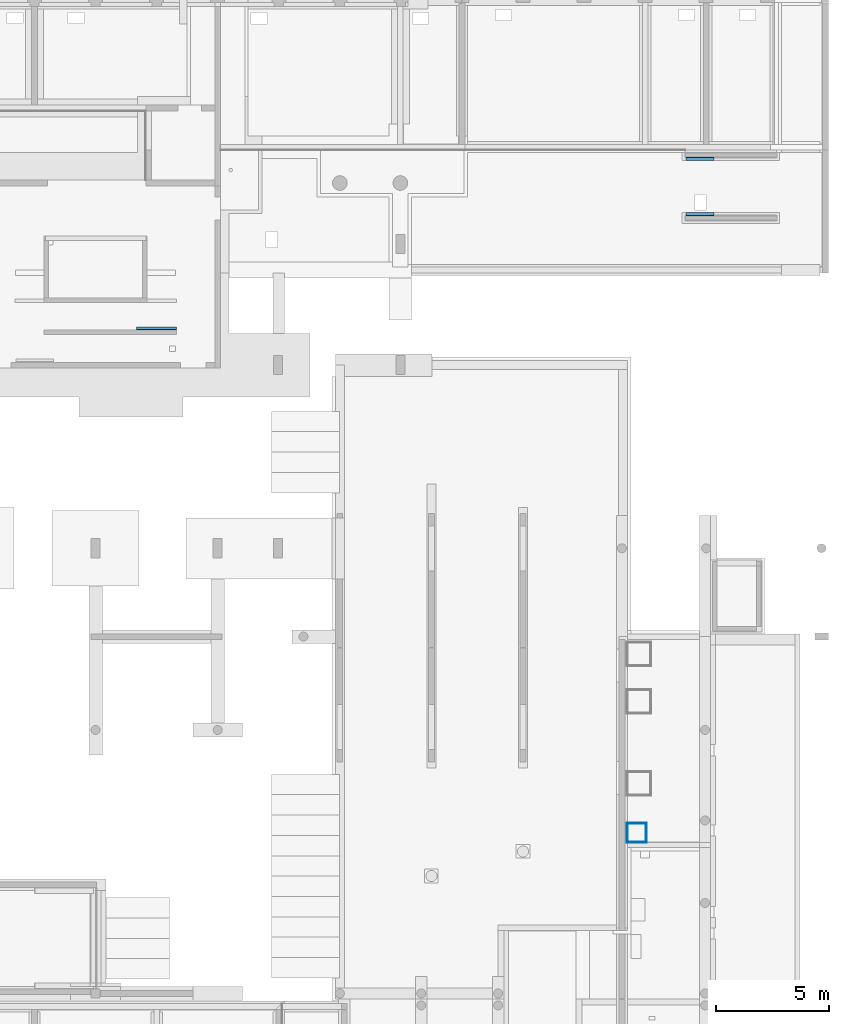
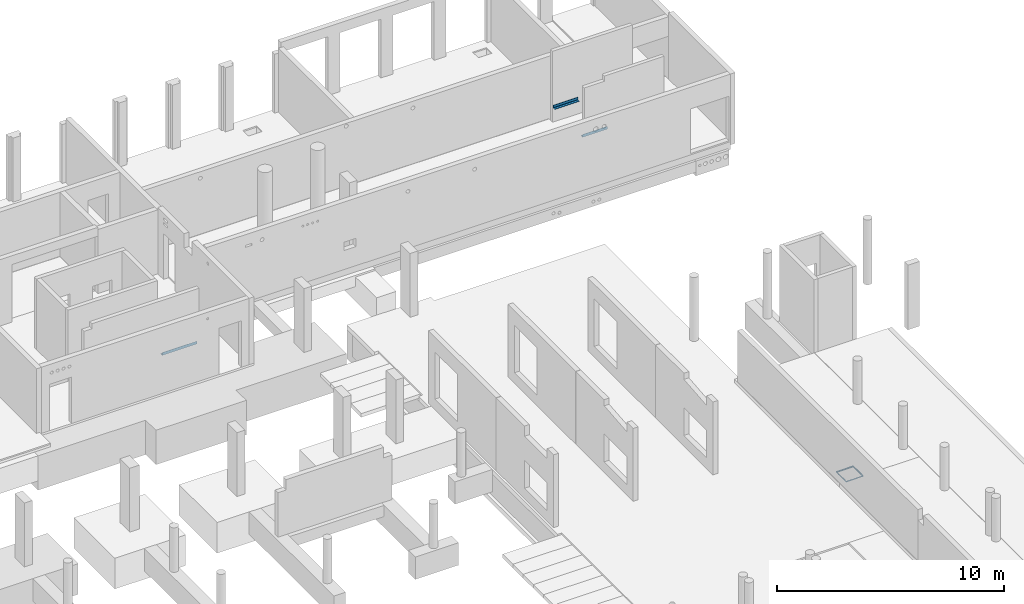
# One storey, part 19 of 60: 7 beams.
"""IFC2X3 building model written with IfcOpenShell, lengths in millimetres."""

from ifc_helpers import new_model, entity, si_unit, converted_unit, derived_unit, direction, frame, frame_2d, origin, place, context, subcontext, project, spatial, polyline, circle_curve, parameter, trimmed, segment, composite_curve, outline, extrude, clip, halfspace, material, type_object, element, save


model = new_model("IFC2X3")

# Units and contexts
model_context = context("Model", 3, precision=0.01, world=origin(), true_north=direction((6.12303176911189e-17, 1.0)))
body_context = subcontext(model_context, "Body", "Model", "MODEL_VIEW")
ifc_project = project(units=[si_unit("LENGTHUNIT", "METRE", prefix="MILLI"), si_unit("AREAUNIT", "SQUARE_METRE"), si_unit("VOLUMEUNIT", "CUBIC_METRE"), converted_unit("PLANEANGLEUNIT", "DEGREE", entity("IfcRatioMeasure", 0.0174532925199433), si_unit("PLANEANGLEUNIT", "RADIAN"), dimensions=[0, 0, 0, 0, 0, 0, 0]), si_unit("MASSUNIT", "GRAM", prefix="KILO"), derived_unit("MASSDENSITYUNIT", [(si_unit("MASSUNIT", "GRAM", prefix="KILO"), 1), (si_unit("LENGTHUNIT", "METRE"), -3)]), si_unit("TIMEUNIT", "SECOND"), si_unit("FREQUENCYUNIT", "HERTZ"), si_unit("THERMODYNAMICTEMPERATUREUNIT", "DEGREE_CELSIUS"), derived_unit("THERMALTRANSMITTANCEUNIT", [(si_unit("MASSUNIT", "GRAM", prefix="KILO"), 1), (si_unit("THERMODYNAMICTEMPERATUREUNIT", "KELVIN"), -1), (si_unit("TIMEUNIT", "SECOND"), -3)]), derived_unit("VOLUMETRICFLOWRATEUNIT", [(si_unit("LENGTHUNIT", "METRE"), 3), (si_unit("TIMEUNIT", "SECOND"), -1)]), si_unit("ELECTRICCURRENTUNIT", "AMPERE"), si_unit("ELECTRICVOLTAGEUNIT", "VOLT"), si_unit("POWERUNIT", "WATT"), si_unit("FORCEUNIT", "NEWTON", prefix="KILO"), si_unit("ILLUMINANCEUNIT", "LUX"), si_unit("LUMINOUSFLUXUNIT", "LUMEN"), si_unit("LUMINOUSINTENSITYUNIT", "CANDELA"), derived_unit("USERDEFINED", [(si_unit("MASSUNIT", "GRAM", prefix="KILO"), -1), (si_unit("LENGTHUNIT", "METRE"), -2), (si_unit("TIMEUNIT", "SECOND"), 3), (si_unit("LUMINOUSFLUXUNIT", "LUMEN"), 1)]), derived_unit("LINEARVELOCITYUNIT", [(si_unit("LENGTHUNIT", "METRE"), 1), (si_unit("TIMEUNIT", "SECOND"), -1)]), si_unit("PRESSUREUNIT", "PASCAL"), derived_unit("USERDEFINED", [(si_unit("LENGTHUNIT", "METRE"), -2), (si_unit("MASSUNIT", "GRAM", prefix="KILO"), 1), (si_unit("TIMEUNIT", "SECOND"), -2)])], contexts=[model_context])

# Site, building, storey
site_placement = place(None, origin())
site = spatial("IfcSite", under=ifc_project, at=site_placement, Name="Default", CompositionType="ELEMENT")
building_placement = place(site_placement, origin())
building = spatial("IfcBuilding", under=site, at=building_placement, Name="niet gebruiken", CompositionType="ELEMENT")
storey_placement = place(building_placement, origin())
storey = spatial("IfcBuildingStorey", under=building, at=storey_placement, Name="00 begane grond", CompositionType="ELEMENT", Elevation=0.0)

# Beams
ifc_material = material(Name="NLRS_h2_staal")
beam_type_1 = type_object("IfcBeamType", Name="NLRS_28.11_SF_WPB_stalen ligger hoekprofiel gelijkzijdig_gen:ligger gelijzijdig hoekprofiel LEQU_150x150x15", PredefinedType="BEAM")
beam_1_placement = place(storey_placement, frame((117900.0, 46133.5000000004, 760.0)))
element("IfcBeam", 1, at=beam_1_placement, inside=storey, type_object=beam_type_1, material=ifc_material, Name="NLRS_28.11_SF_WPB_stalen ligger hoekprofiel gelijkzijdig_gen:ligger gelijzijdig hoekprofiel LEQU_150x150x15", ObjectType="NLRS_28.11_SF_WPB_stalen ligger hoekprofiel gelijkzijdig_gen:ligger gelijzijdig hoekprofiel LEQU_150x150x15", context=body_context, shape_type="SweptSolid", body=[
    extrude(outline(composite_curve([segment(polyline([(49.6666666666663, -93.3333333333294), (56.6666666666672, -93.3333333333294)]), True, "CONTINUOUS"), segment(polyline([(56.6666666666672, -93.3333333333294), (56.6666666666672, 56.6666666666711)]), True, "CONTINUOUS"), segment(polyline([(56.6666666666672, 56.6666666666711), (-93.3333333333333, 56.6666666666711)]), True, "CONTINUOUS"), segment(polyline([(-93.3333333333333, 56.6666666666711), (-93.3333333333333, 49.6666666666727)]), True, "CONTINUOUS"), segment(trimmed(circle_curve(frame_2d((-85.3333333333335, 49.6666666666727), x_axis=(-1.0, 0.0)), 7.99999999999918), [parameter(0.0)], [parameter(90.000000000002)], True, "PARAMETER"), True, "CONTINUOUS"), segment(polyline([(-85.3333333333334, 41.6666666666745), (25.6666666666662, 41.6666666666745)]), True, "CONTINUOUS"), segment(trimmed(circle_curve(frame_2d((25.6666666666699, 25.6666666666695), x_axis=(0.0, 1.0)), 15.9999999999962), [parameter(269.999999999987)], [parameter(0.0)], True, "PARAMETER"), False, "CONTINUOUS"), segment(polyline([(41.6666666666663, 25.6666666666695), (41.6666666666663, -85.3333333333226)]), True, "CONTINUOUS"), segment(trimmed(circle_curve(frame_2d((49.6666666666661, -85.3333333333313), x_axis=(-1.0, 0.0)), 7.99999999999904), [parameter(0.0)], [parameter(90.000000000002)], True, "PARAMETER"), True, "CONTINUOUS")], self_intersect=False)), frame((0.0, -14.1666666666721, 56.6666666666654), z_axis=(1.0, 0.0, 0.0), x_axis=(0.0, 0.0, -1.0)), (0.0, 0.0, 1.0), 1249.99999999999),
])
beam_2_placement = place(storey_placement, frame((117900.0, 43618.5000000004, 760.0)))
element("IfcBeam", 2, at=beam_2_placement, inside=storey, type_object=beam_type_1, material=ifc_material, Name="NLRS_28.11_SF_WPB_stalen ligger hoekprofiel gelijkzijdig_gen:ligger gelijzijdig hoekprofiel LEQU_150x150x15", ObjectType="NLRS_28.11_SF_WPB_stalen ligger hoekprofiel gelijkzijdig_gen:ligger gelijzijdig hoekprofiel LEQU_150x150x15", context=body_context, shape_type="SweptSolid", body=[
    extrude(outline(composite_curve([segment(polyline([(-93.3333333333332, -56.6666666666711), (56.6666666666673, -56.6666666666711)]), True, "CONTINUOUS"), segment(polyline([(56.6666666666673, -56.6666666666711), (56.6666666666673, 93.3333333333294)]), True, "CONTINUOUS"), segment(polyline([(56.6666666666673, 93.3333333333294), (49.6666666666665, 93.3333333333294)]), True, "CONTINUOUS"), segment(trimmed(circle_curve(frame_2d((49.6666666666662, 85.3333333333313), x_axis=(0.0, 1.0)), 7.99999999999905), [parameter(0.0)], [parameter(90.000000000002)], True, "PARAMETER"), True, "CONTINUOUS"), segment(polyline([(41.6666666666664, 85.3333333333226), (41.6666666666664, -25.6666666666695)]), True, "CONTINUOUS"), segment(trimmed(circle_curve(frame_2d((25.66666666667, -25.6666666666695), x_axis=(1.0, 0.0)), 15.9999999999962), [parameter(269.999999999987)], [parameter(0.0)], True, "PARAMETER"), False, "CONTINUOUS"), segment(polyline([(25.6666666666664, -41.6666666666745), (-85.3333333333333, -41.6666666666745)]), True, "CONTINUOUS"), segment(trimmed(circle_curve(frame_2d((-85.3333333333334, -49.6666666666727), x_axis=(0.0, 1.0)), 7.99999999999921), [parameter(0.0)], [parameter(90.000000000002)], True, "PARAMETER"), True, "CONTINUOUS"), segment(polyline([(-93.3333333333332, -49.6666666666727), (-93.3333333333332, -56.6666666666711)]), True, "CONTINUOUS")], self_intersect=False)), frame((0.0, 14.1666666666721, 56.6666666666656), z_axis=(1.0, 0.0, 0.0), x_axis=(0.0, 0.0, -1.0)), (0.0, 0.0, 1.0), 1249.99999999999),
])
beam_3_placement = place(storey_placement, frame((93620.0, 38568.4999999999, 600.909090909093)))
element("IfcBeam", 3, at=beam_3_placement, inside=storey, type_object=beam_type_1, material=ifc_material, Name="NLRS_28.11_SF_WPB_stalen ligger hoekprofiel gelijkzijdig_gen:ligger gelijzijdig hoekprofiel LEQU_150x150x15", ObjectType="NLRS_28.11_SF_WPB_stalen ligger hoekprofiel gelijkzijdig_gen:ligger gelijzijdig hoekprofiel LEQU_150x150x15", context=body_context, shape_type="SweptSolid", body=[
    extrude(outline(composite_curve([segment(polyline([(-93.3333333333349, -56.6666666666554), (56.6666666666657, -56.6666666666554)]), True, "CONTINUOUS"), segment(polyline([(56.6666666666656, -56.6666666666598), (56.6666666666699, 93.3333333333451)]), True, "CONTINUOUS"), segment(polyline([(56.6666666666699, 93.3333333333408), (49.6666666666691, 93.3333333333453)]), True, "CONTINUOUS"), segment(trimmed(circle_curve(frame_2d((49.666666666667, 85.3333333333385), x_axis=(0.0, 1.0)), 7.99999999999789), [parameter(0.0)], [parameter(90.0000000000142)], True, "PARAMETER"), True, "CONTINUOUS"), segment(polyline([(41.6666666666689, 85.3333333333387), (41.6666666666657, -25.6666666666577)]), True, "CONTINUOUS"), segment(trimmed(circle_curve(frame_2d((25.6666666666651, -25.6666666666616), x_axis=(1.0, 0.0)), 16.0000000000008), [parameter(270.000000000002)], [parameter(0.0)], True, "PARAMETER"), False, "CONTINUOUS"), segment(polyline([(25.6666666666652, -41.6666666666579), (-85.3333333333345, -41.6666666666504)]), True, "CONTINUOUS"), segment(trimmed(circle_curve(frame_2d((-85.3333333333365, -49.6666666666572), x_axis=(0.0, 1.0)), 7.99999999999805), [parameter(0.0)], [parameter(90.0000000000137)], True, "PARAMETER"), True, "CONTINUOUS"), segment(polyline([(-93.3333333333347, -49.666666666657), (-93.3333333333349, -56.6666666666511)]), True, "CONTINUOUS")], self_intersect=False)), frame((0.0, 14.1666666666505, 56.6666666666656), z_axis=(1.0, 0.0, 0.0), x_axis=(0.0, 0.0, -1.0)), (0.0, 0.0, 1.0), 1755.00000000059),
])
beam_type_2 = type_object("IfcBeamType", Name="NLRS_28.11_SF_WPB_stalen ligger hoekprofiel gelijkzijdig_gen:ligger gelijzijdig hoekprofiel LEQU_40x40x4", PredefinedType="BEAM")
beam_4_placement = place(storey_placement, frame((115296.2, 16786.0, 0.0), z_axis=(0.0, 0.0, 1.0), x_axis=(0.0, -1.0, 0.0)))
element("IfcBeam", 4, at=beam_4_placement, inside=storey, type_object=beam_type_2, material=ifc_material, Name="NLRS_28.11_SF_WPB_stalen ligger hoekprofiel gelijkzijdig_gen:ligger gelijzijdig hoekprofiel LEQU_40x40x4", ObjectType="NLRS_28.11_SF_WPB_stalen ligger hoekprofiel gelijkzijdig_gen:ligger gelijzijdig hoekprofiel LEQU_40x40x4", context=body_context, shape_type="Clipping", body=[
    clip(clip(extrude(outline(composite_curve([segment(polyline([(-24.8888888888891, -15.1111111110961), (15.1111111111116, -15.1111111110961)]), True, "CONTINUOUS"), segment(polyline([(15.1111111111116, -15.1111111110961), (15.1111111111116, 24.8888888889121)]), True, "CONTINUOUS"), segment(polyline([(15.1111111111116, 24.8888888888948), (14.1111111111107, 24.8888888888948)]), True, "CONTINUOUS"), segment(trimmed(circle_curve(frame_2d((14.1111111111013, 21.8888888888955), x_axis=(0.0, 1.0)), 2.99999999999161), [parameter(0.0)], [parameter(90.0000000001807)], True, "PARAMETER"), True, "CONTINUOUS"), segment(polyline([(11.1111111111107, 21.8888888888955), (11.1111111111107, -5.1111111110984)]), True, "CONTINUOUS"), segment(trimmed(circle_curve(frame_2d((5.11111111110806, -5.1111111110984), x_axis=(1.0, 0.0)), 6.00000000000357), [parameter(270.000000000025)], [parameter(0.0)], True, "PARAMETER"), False, "CONTINUOUS"), segment(polyline([(5.11111111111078, -11.111111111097), (-21.888888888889, -11.111111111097)]), True, "CONTINUOUS"), segment(trimmed(circle_curve(frame_2d((-21.8888888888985, -14.1111111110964), x_axis=(0.0, 1.0)), 2.99999999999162), [parameter(0.0)], [parameter(90.0000000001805)], True, "PARAMETER"), True, "CONTINUOUS"), segment(polyline([(-24.8888888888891, -14.1111111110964), (-24.8888888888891, -15.1111111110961)]), True, "CONTINUOUS")], self_intersect=False)), frame((49.9999894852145, 3.9111111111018, -24.8888888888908), z_axis=(1.0, 0.0, 0.0), x_axis=(0.0, 0.0, -1.0)), (0.0, 0.0, 1.0), 880.000021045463), halfspace(frame((930.0, -11.199989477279, 1000.0), z_axis=(0.707106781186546, 0.707106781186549, 0.0), x_axis=(0.707106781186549, -0.707106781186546, 0.0)), False)), halfspace(frame((50.0, -11.1999894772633, 1000.0), z_axis=(-0.707106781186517, 0.707106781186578, 0.0), x_axis=(-0.707106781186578, -0.707106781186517, 0.0)), False)),
])
beam_5_placement = place(storey_placement, frame((115251.216061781, 15867.2000000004, 0.0)))
element("IfcBeam", 5, at=beam_5_placement, inside=storey, type_object=beam_type_2, material=ifc_material, Name="NLRS_28.11_SF_WPB_stalen ligger hoekprofiel gelijkzijdig_gen:ligger gelijzijdig hoekprofiel LEQU_40x40x4", ObjectType="NLRS_28.11_SF_WPB_stalen ligger hoekprofiel gelijkzijdig_gen:ligger gelijzijdig hoekprofiel LEQU_40x40x4", context=body_context, shape_type="Clipping", body=[
    clip(clip(extrude(outline(composite_curve([segment(polyline([(-24.888888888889, -15.1111111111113), (15.1111111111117, -15.1111111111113)]), True, "CONTINUOUS"), segment(polyline([(15.1111111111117, -15.1111111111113), (15.1111111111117, 24.8888888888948)]), True, "CONTINUOUS"), segment(polyline([(15.1111111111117, 24.8888888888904), (14.1111111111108, 24.8888888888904)]), True, "CONTINUOUS"), segment(trimmed(circle_curve(frame_2d((14.1111111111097, 21.8888888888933), x_axis=(0.0, 1.0)), 2.99999999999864), [parameter(0.0)], [parameter(90.0000000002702)], True, "PARAMETER"), True, "CONTINUOUS"), segment(polyline([(11.1111111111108, 21.8888888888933), (11.1111111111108, -5.11111111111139)]), True, "CONTINUOUS"), segment(trimmed(circle_curve(frame_2d((5.11111111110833, -5.11111111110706), x_axis=(1.0, 0.0)), 6.00000000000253), [parameter(270.000000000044)], [parameter(0.0)], True, "PARAMETER"), False, "CONTINUOUS"), segment(polyline([(5.11111111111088, -11.11111111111), (-21.8888888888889, -11.11111111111)]), True, "CONTINUOUS"), segment(trimmed(circle_curve(frame_2d((-21.8888888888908, -14.1111111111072), x_axis=(0.0, 1.0)), 2.99999999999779), [parameter(0.0)], [parameter(90.0000000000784)], True, "PARAMETER"), True, "CONTINUOUS"), segment(polyline([(-24.888888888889, -14.1111111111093), (-24.888888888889, -15.1111111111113)]), True, "CONTINUOUS")], self_intersect=False)), frame((33.7839487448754, 3.9111111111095, -24.8888888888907), z_axis=(1.0, 0.0, 0.0), x_axis=(0.0, 0.0, -1.0)), (0.0, 0.0, 1.0), 879.99999999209), halfspace(frame((33.7839487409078, -11.2000000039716, 1000.0), z_axis=(-0.707106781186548, 0.707106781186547, 0.0), x_axis=(-0.707106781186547, -0.707106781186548, 0.0)), False)), halfspace(frame((913.783948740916, -11.2000000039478, 1000.0), z_axis=(0.707106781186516, 0.707106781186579, 0.0), x_axis=(0.707106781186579, -0.707106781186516, 0.0)), False)),
])
beam_6_placement = place(storey_placement, frame((115251.216061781, 16724.7999999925, 0.0)))
element("IfcBeam", 6, at=beam_6_placement, inside=storey, type_object=beam_type_2, material=ifc_material, Name="NLRS_28.11_SF_WPB_stalen ligger hoekprofiel gelijkzijdig_gen:ligger gelijzijdig hoekprofiel LEQU_40x40x4", ObjectType="NLRS_28.11_SF_WPB_stalen ligger hoekprofiel gelijkzijdig_gen:ligger gelijzijdig hoekprofiel LEQU_40x40x4", context=body_context, shape_type="Clipping", body=[
    clip(clip(extrude(outline(composite_curve([segment(polyline([(14.1111111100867, -24.8888888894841), (15.1111111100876, -24.8888888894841)]), True, "CONTINUOUS"), segment(polyline([(15.1111111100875, -24.8888888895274), (15.1111111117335, 15.1111111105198)]), True, "CONTINUOUS"), segment(polyline([(15.1111111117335, 15.1111111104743), (-24.8888888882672, 15.1111111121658)]), True, "CONTINUOUS"), segment(polyline([(-24.8888888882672, 15.1111111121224), (-24.8888888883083, 14.1111111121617)]), True, "CONTINUOUS"), segment(trimmed(circle_curve(frame_2d((-21.8888888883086, 14.1111111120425), x_axis=(-1.0, 0.0)), 2.99999999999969), [parameter(0.0)], [parameter(90.0000000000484)], True, "PARAMETER"), True, "CONTINUOUS"), segment(polyline([(-21.8888888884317, 11.1111111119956), (5.11111111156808, 11.11111111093)]), True, "CONTINUOUS"), segment(trimmed(circle_curve(frame_2d((5.11111111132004, 5.1111111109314), x_axis=(0.0, 1.0)), 6.00000000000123), [parameter(269.99999999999)], [parameter(0.0)], True, "PARAMETER"), False, "CONTINUOUS"), segment(polyline([(11.1111111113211, 5.11111111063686), (11.1111111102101, -21.888888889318)]), True, "CONTINUOUS"), segment(trimmed(circle_curve(frame_2d((14.1111111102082, -21.8888888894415), x_axis=(-1.0, 0.0)), 2.99999999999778), [parameter(0.0)], [parameter(90.0000000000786)], True, "PARAMETER"), True, "CONTINUOUS")], self_intersect=False)), frame((33.7839487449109, -3.91111111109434, -24.8888888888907), z_axis=(1.0, 0.0, 0.0), x_axis=(0.0, 0.0, -1.0)), (0.0, 0.0, 1.0), 879.999999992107), halfspace(frame((913.783948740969, 11.2000000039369, 1000.0), z_axis=(0.707106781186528, -0.707106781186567, 0.0), x_axis=(0.707106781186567, 0.707106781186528, 0.0)), False)), halfspace(frame((33.7839487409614, 11.2000000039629, 1000.0), z_axis=(-0.707106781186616, -0.707106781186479, 0.0), x_axis=(-0.707106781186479, 0.707106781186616, 0.0)), False)),
])
beam_7_placement = place(storey_placement, frame((116153.800021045, 16786.0, 0.0), z_axis=(0.0, 0.0, 1.0), x_axis=(0.0, -1.0, 0.0)))
element("IfcBeam", 7, at=beam_7_placement, inside=storey, type_object=beam_type_2, material=ifc_material, Name="NLRS_28.11_SF_WPB_stalen ligger hoekprofiel gelijkzijdig_gen:ligger gelijzijdig hoekprofiel LEQU_40x40x4", ObjectType="NLRS_28.11_SF_WPB_stalen ligger hoekprofiel gelijkzijdig_gen:ligger gelijzijdig hoekprofiel LEQU_40x40x4", context=body_context, shape_type="Clipping", body=[
    clip(clip(extrude(outline(composite_curve([segment(polyline([(14.1111111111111, -24.8888888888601), (15.111111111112, -24.8888888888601)]), True, "CONTINUOUS"), segment(polyline([(15.1111111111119, -24.8888888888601), (15.1111111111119, 15.1111111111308)]), True, "CONTINUOUS"), segment(polyline([(15.111111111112, 15.1111111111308), (-24.8888888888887, 15.1111111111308)]), True, "CONTINUOUS"), segment(polyline([(-24.8888888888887, 15.1111111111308), (-24.8888888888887, 14.111111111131)]), True, "CONTINUOUS"), segment(trimmed(circle_curve(frame_2d((-21.8888888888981, 14.111111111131), x_axis=(-1.0, 0.0)), 2.99999999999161), [parameter(0.0)], [parameter(90.0000000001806)], True, "PARAMETER"), True, "CONTINUOUS"), segment(polyline([(-21.8888888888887, 11.1111111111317), (5.11111111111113, 11.1111111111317)]), True, "CONTINUOUS"), segment(trimmed(circle_curve(frame_2d((5.11111111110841, 5.11111111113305), x_axis=(0.0, 1.0)), 6.00000000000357), [parameter(270.000000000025)], [parameter(0.0)], True, "PARAMETER"), False, "CONTINUOUS"), segment(polyline([(11.1111111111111, 5.11111111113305), (11.1111111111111, -21.8888888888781)]), True, "CONTINUOUS"), segment(trimmed(circle_curve(frame_2d((14.1111111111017, -21.8888888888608), x_axis=(-1.0, 0.0)), 2.99999999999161), [parameter(0.0)], [parameter(90.0000000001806)], True, "PARAMETER"), True, "CONTINUOUS")], self_intersect=False)), frame((49.9999894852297, -3.91111111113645, -24.8888888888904), z_axis=(1.0, 0.0, 0.0), x_axis=(0.0, 0.0, -1.0)), (0.0, 0.0, 1.0), 880.000021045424), halfspace(frame((930.0, 11.199989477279, 1000.0), z_axis=(0.707106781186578, -0.707106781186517, 0.0), x_axis=(0.707106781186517, 0.707106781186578, 0.0)), False)), halfspace(frame((50.0, 11.199989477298, 1000.0), z_axis=(-0.707106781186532, -0.707106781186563, 0.0), x_axis=(-0.707106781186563, 0.707106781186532, 0.0)), False)),
])

save(model, "model.ifc")
